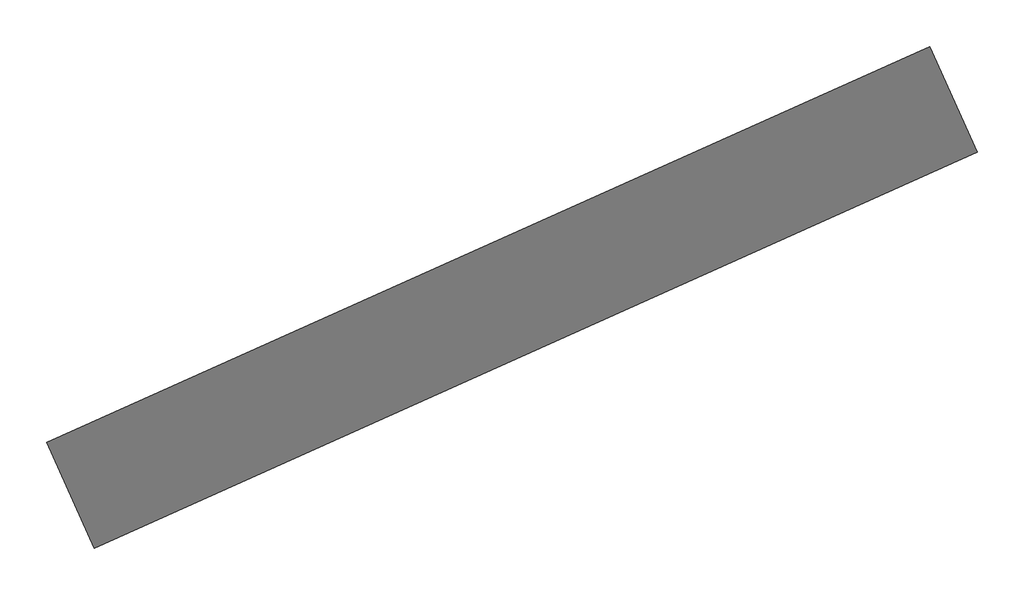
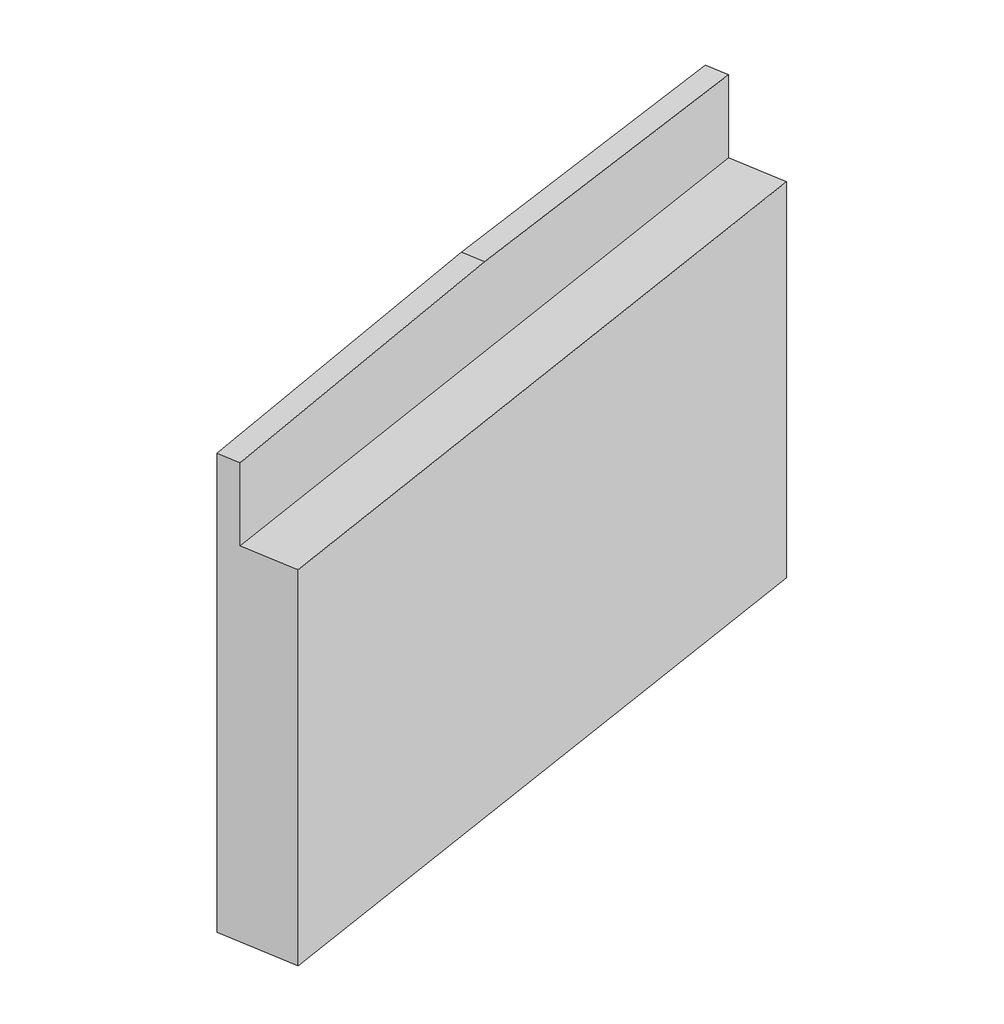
# One storey: 1 proxy.
"""IFC4 building model written with IfcOpenShell, lengths in millimetres."""

from ifc_helpers import new_model, si_unit, origin, place, context, project, spatial, transform, mapped, element, save
from components import generic_models_a9e47605

model = new_model("IFC4")

# Units and contexts
model_context = context("Model", 3, world=origin())
ifc_project = project(units=[si_unit("LENGTHUNIT", "METRE", prefix="MILLI")], contexts=[model_context])

# Site, building, storey
site = spatial("IfcSite", under=ifc_project)
building = spatial("IfcBuilding", under=site)
storey = spatial("IfcBuildingStorey", under=building, Name="レベル 17", Elevation=-8429.1607083)

# Proxy
placement = place(None, origin())
generic_models_shape = generic_models_a9e47605(model_context)
element("IfcBuildingElementProxy", 1, Name="M_Abutment_basic_no_slope_no_foundation : M_Abutment_basic_no_slope_no_foundation", ObjectType="M_Abutment_basic_no_slope_no_foundation : M_Abutment_basic_no_slope_no_foundation", at=placement, inside=storey, context=model_context, shape_type="MappedRepresentation", body=[
    mapped(generic_models_shape, transform((-10313.007, 22993.0835, -1660.680896), x_axis=(0.9124239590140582, 0.4092462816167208, 0.0), y_axis=(-0.4092462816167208, 0.9124239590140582, 0.0), z_axis=(0.0, 0.0, 1.0))),
])

save(model, "model.ifc")
